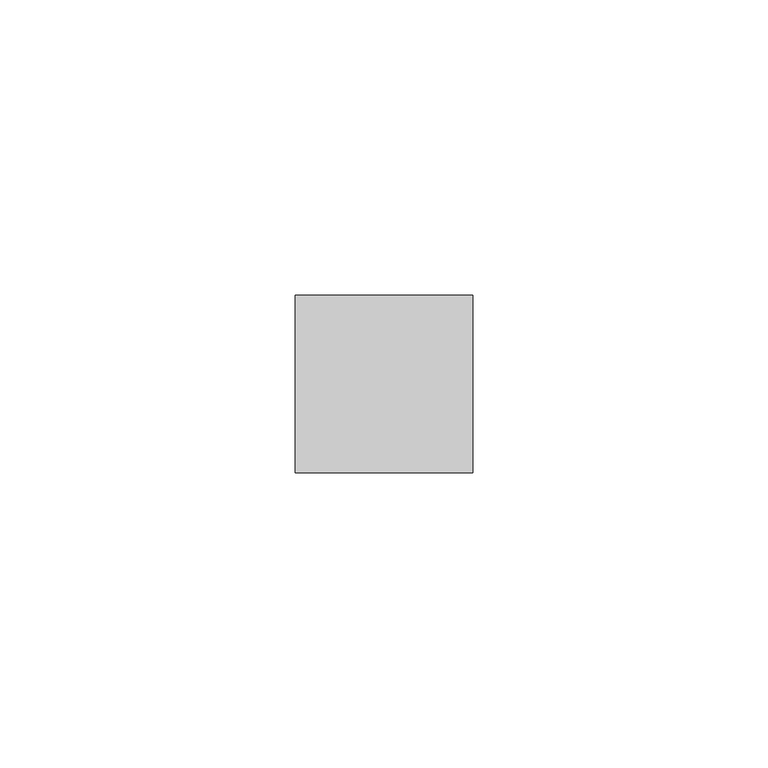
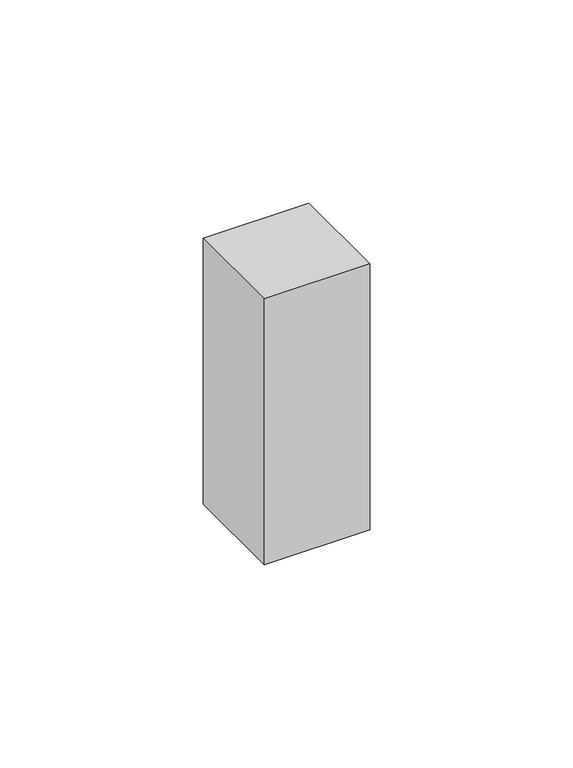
"""IFC4 building model written with IfcOpenShell, lengths in millimetres: proxy geometry, Bouchon de sécurité vertical : Bouchon de sécurité vertical."""

from ifc_helpers import new_model, si_unit, origin, origin_with_axes, place, context, project, spatial, polyline, outline, extrude, source, transform, mapped, element, save


def generic_models_e9040c9c(model_context):
    return source(origin(), model_context, "Body", "SweptSolid", [
        extrude(outline(polyline([(-20.0, -30.0), (-50.0, -30.0), (-50.0, 0.0), (-20.0, 0.0), (-20.0, -30.0)])), origin_with_axes(), (0.0, 0.0, 1.0), 80.0),
    ])


if __name__ == "__main__":
    model = new_model("IFC4")
    model_context = context("Model", 3, world=origin())
    ifc_project = project(units=[si_unit("LENGTHUNIT", "METRE", prefix="MILLI")], contexts=[model_context])
    site = spatial("IfcSite", under=ifc_project)
    building = spatial("IfcBuilding", under=site)
    placement = place(None, origin())
    generic_models_shape = generic_models_e9040c9c(model_context)
    element("IfcBuildingElementProxy", 1, Name="Bouchon de sécurité vertical : Bouchon de sécurité vertical", ObjectType="Bouchon de sécurité vertical : Bouchon de sécurité vertical", at=placement, inside=building, context=model_context, shape_type="MappedRepresentation", body=[
        mapped(generic_models_shape, transform((0.0, 0.0, 0.0), x_axis=(1.0, 0.0, 0.0), y_axis=(0.0, 1.0, 0.0), z_axis=(0.0, 0.0, 1.0))),
    ])
    save(model, "model.ifc")
